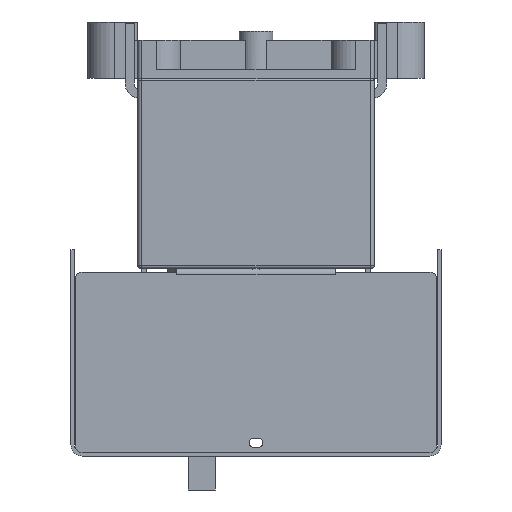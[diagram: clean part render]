
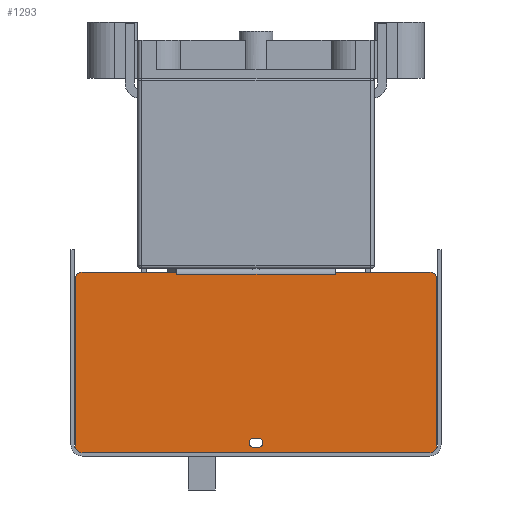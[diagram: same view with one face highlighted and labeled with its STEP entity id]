
A CAD part, left-side view. The second image highlights one B-rep face of the part: STEP entity #1293.
In plain terms, the highlighted planar face has unit normal (-1, 0, 0).
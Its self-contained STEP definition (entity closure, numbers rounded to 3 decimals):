
#170=FACE_BOUND('',#4011,.T.);
#171=FACE_BOUND('',#4012,.T.);
#1293=ADVANCED_FACE('',(#170,#171),#2097,.T.);
#2097=PLANE('',#20518);
#4011=EDGE_LOOP('',(#8675,#8676,#8677,#8678,#8679,#8680,#8681,#8682,#8683,
#8684,#8685,#8686,#8687,#8688));
#4012=EDGE_LOOP('',(#8689,#8690,#8691,#8692));
#4915=CIRCLE('',#20496,2.1);
#4917=CIRCLE('',#20500,2.1);
#4919=CIRCLE('',#20504,3.);
#4921=CIRCLE('',#20507,3.);
#4923=CIRCLE('',#20511,3.);
#4925=CIRCLE('',#20515,3.);
#8675=ORIENTED_EDGE('',*,*,#14379,.F.);
#8676=ORIENTED_EDGE('',*,*,#14380,.T.);
#8677=ORIENTED_EDGE('',*,*,#14381,.T.);
#8678=ORIENTED_EDGE('',*,*,#14382,.T.);
#8679=ORIENTED_EDGE('',*,*,#14383,.F.);
#8680=ORIENTED_EDGE('',*,*,#14371,.T.);
#8681=ORIENTED_EDGE('',*,*,#14376,.T.);
#8682=ORIENTED_EDGE('',*,*,#14359,.T.);
#8683=ORIENTED_EDGE('',*,*,#14362,.T.);
#8684=ORIENTED_EDGE('',*,*,#14337,.T.);
#8685=ORIENTED_EDGE('',*,*,#14365,.T.);
#8686=ORIENTED_EDGE('',*,*,#14368,.T.);
#8687=ORIENTED_EDGE('',*,*,#14370,.T.);
#8688=ORIENTED_EDGE('',*,*,#14345,.T.);
#8689=ORIENTED_EDGE('',*,*,#14349,.T.);
#8690=ORIENTED_EDGE('',*,*,#14353,.T.);
#8691=ORIENTED_EDGE('',*,*,#14356,.T.);
#8692=ORIENTED_EDGE('',*,*,#14378,.T.);
#11594=VERTEX_POINT('',#29049);
#11639=VERTEX_POINT('',#29146);
#11923=VERTEX_POINT('',#30237);
#11924=VERTEX_POINT('',#30239);
#11927=VERTEX_POINT('',#30246);
#11928=VERTEX_POINT('',#30248);
#11930=VERTEX_POINT('',#30254);
#11932=VERTEX_POINT('',#30260);
#11935=VERTEX_POINT('',#30267);
#11936=VERTEX_POINT('',#30269);
#11938=VERTEX_POINT('',#30278);
#11940=VERTEX_POINT('',#30284);
#11941=VERTEX_POINT('',#30291);
#11942=VERTEX_POINT('',#30292);
#11945=VERTEX_POINT('',#30306);
#11946=VERTEX_POINT('',#30308);
#11947=VERTEX_POINT('',#30310);
#11948=VERTEX_POINT('',#30312);
#14337=EDGE_CURVE('',#11594,#11639,#16695,.T.);
#14345=EDGE_CURVE('',#11924,#11923,#16702,.T.);
#14349=EDGE_CURVE('',#11928,#11927,#4915,.T.);
#14353=EDGE_CURVE('',#11927,#11930,#16708,.T.);
#14356=EDGE_CURVE('',#11930,#11932,#4917,.T.);
#14359=EDGE_CURVE('',#11936,#11935,#16712,.T.);
#14362=EDGE_CURVE('',#11935,#11594,#4919,.T.);
#14365=EDGE_CURVE('',#11639,#11938,#4921,.T.);
#14368=EDGE_CURVE('',#11938,#11940,#16717,.T.);
#14370=EDGE_CURVE('',#11940,#11924,#4923,.T.);
#14371=EDGE_CURVE('',#11941,#11942,#16718,.T.);
#14376=EDGE_CURVE('',#11942,#11936,#4925,.T.);
#14378=EDGE_CURVE('',#11932,#11928,#16723,.T.);
#14379=EDGE_CURVE('',#11945,#11923,#16724,.T.);
#14380=EDGE_CURVE('',#11945,#11946,#16725,.T.);
#14381=EDGE_CURVE('',#11946,#11947,#16726,.T.);
#14382=EDGE_CURVE('',#11947,#11948,#16727,.T.);
#14383=EDGE_CURVE('',#11941,#11948,#16728,.T.);
#16695=LINE('',#30220,#18733);
#16702=LINE('',#30238,#18740);
#16708=LINE('',#30255,#18746);
#16712=LINE('',#30268,#18750);
#16717=LINE('',#30285,#18755);
#16718=LINE('',#30290,#18756);
#16723=LINE('',#30303,#18761);
#16724=LINE('',#30305,#18762);
#16725=LINE('',#30307,#18763);
#16726=LINE('',#30309,#18764);
#16727=LINE('',#30311,#18765);
#16728=LINE('',#30313,#18766);
#18733=VECTOR('',#24567,1.);
#18740=VECTOR('',#24580,1.);
#18746=VECTOR('',#24594,1.);
#18750=VECTOR('',#24606,1.);
#18755=VECTOR('',#24625,1.);
#18756=VECTOR('',#24634,1.);
#18761=VECTOR('',#24647,1.);
#18762=VECTOR('',#24650,1.);
#18763=VECTOR('',#24651,1.);
#18764=VECTOR('',#24652,1.);
#18765=VECTOR('',#24653,1.);
#18766=VECTOR('',#24654,1.);
#20496=AXIS2_PLACEMENT_3D('',#30247,#24587,#24588);
#20500=AXIS2_PLACEMENT_3D('',#30261,#24600,#24601);
#20504=AXIS2_PLACEMENT_3D('',#30273,#24612,#24613);
#20507=AXIS2_PLACEMENT_3D('',#30279,#24619,#24620);
#20511=AXIS2_PLACEMENT_3D('',#30288,#24630,#24631);
#20515=AXIS2_PLACEMENT_3D('',#30300,#24642,#24643);
#20518=AXIS2_PLACEMENT_3D('',#30314,#24655,#24656);
#24567=DIRECTION('',(0.,-1.,0.));
#24580=DIRECTION('',(0.,1.,0.));
#24587=DIRECTION('',(1.,0.,0.));
#24588=DIRECTION('',(0.,1.,0.));
#24594=DIRECTION('',(0.,-1.,0.));
#24600=DIRECTION('',(1.,0.,0.));
#24601=DIRECTION('',(0.,1.,0.));
#24606=DIRECTION('',(0.,0.,-1.));
#24612=DIRECTION('',(-1.,0.,0.));
#24613=DIRECTION('',(0.,1.,0.));
#24619=DIRECTION('',(-1.,0.,0.));
#24620=DIRECTION('',(0.,1.,0.));
#24625=DIRECTION('',(0.,0.,1.));
#24630=DIRECTION('',(-1.,0.,0.));
#24631=DIRECTION('',(0.,1.,0.));
#24634=DIRECTION('',(0.,1.,0.));
#24642=DIRECTION('',(-1.,0.,0.));
#24643=DIRECTION('',(0.,1.,0.));
#24647=DIRECTION('',(0.,1.,0.));
#24650=DIRECTION('',(0.,0.,1.));
#24651=DIRECTION('',(0.,1.,0.));
#24652=DIRECTION('',(0.,1.,0.));
#24653=DIRECTION('',(0.,1.,0.));
#24654=DIRECTION('',(0.,0.,-1.));
#24655=DIRECTION('',(-1.,0.,0.));
#24656=DIRECTION('',(0.,-1.,0.));
#29049=CARTESIAN_POINT('',(-189.3,77.,-165.8));
#29146=CARTESIAN_POINT('',(-189.3,-77.,-165.8));
#30220=CARTESIAN_POINT('',(-189.3,77.,-165.8));
#30237=CARTESIAN_POINT('',(-189.3,-35.002,-85.8));
#30238=CARTESIAN_POINT('',(-189.3,-77.,-85.8));
#30239=CARTESIAN_POINT('',(-189.3,-77.,-85.8));
#30246=CARTESIAN_POINT('',(-189.3,1.,-159.3));
#30247=CARTESIAN_POINT('',(-189.3,1.,-161.4));
#30248=CARTESIAN_POINT('',(-189.3,1.,-163.5));
#30254=CARTESIAN_POINT('',(-189.3,-1.,-159.3));
#30255=CARTESIAN_POINT('',(-189.3,1.,-159.3));
#30260=CARTESIAN_POINT('',(-189.3,-1.,-163.5));
#30261=CARTESIAN_POINT('',(-189.3,-1.,-161.4));
#30267=CARTESIAN_POINT('',(-189.3,80.,-162.8));
#30268=CARTESIAN_POINT('',(-189.3,80.,-88.8));
#30269=CARTESIAN_POINT('',(-189.3,80.,-88.8));
#30273=CARTESIAN_POINT('',(-189.3,77.,-162.8));
#30278=CARTESIAN_POINT('',(-189.3,-80.,-162.8));
#30279=CARTESIAN_POINT('',(-189.3,-77.,-162.8));
#30284=CARTESIAN_POINT('',(-189.3,-80.,-88.8));
#30285=CARTESIAN_POINT('',(-189.3,-80.,-162.8));
#30288=CARTESIAN_POINT('',(-189.3,-77.,-88.8));
#30290=CARTESIAN_POINT('',(-189.3,-77.,-85.8));
#30291=CARTESIAN_POINT('',(-189.3,35.002,-85.8));
#30292=CARTESIAN_POINT('',(-189.3,77.,-85.8));
#30300=CARTESIAN_POINT('',(-189.3,77.,-88.8));
#30303=CARTESIAN_POINT('',(-189.3,-1.,-163.5));
#30305=CARTESIAN_POINT('',(-189.3,-35.002,-162.8));
#30306=CARTESIAN_POINT('',(-189.3,-35.002,-86.8));
#30307=CARTESIAN_POINT('',(-189.3,77.,-86.8));
#30308=CARTESIAN_POINT('',(-189.3,-35.,-86.8));
#30309=CARTESIAN_POINT('',(-189.3,50.5,-86.8));
#30310=CARTESIAN_POINT('',(-189.3,35.,-86.8));
#30311=CARTESIAN_POINT('',(-189.3,77.,-86.8));
#30312=CARTESIAN_POINT('',(-189.3,35.002,-86.8));
#30313=CARTESIAN_POINT('',(-189.3,35.002,-162.8));
#30314=CARTESIAN_POINT('',(-189.3,77.,-162.8));
